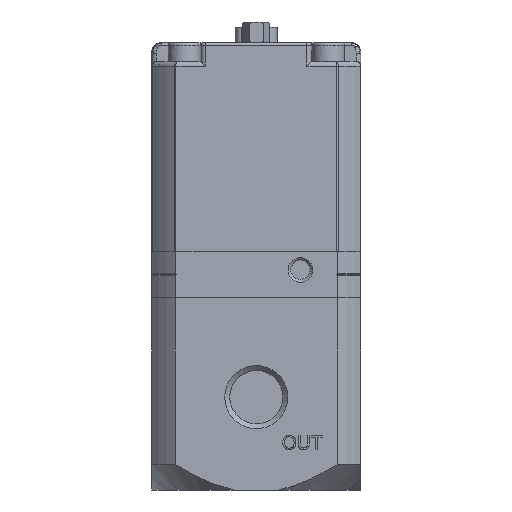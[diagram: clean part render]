
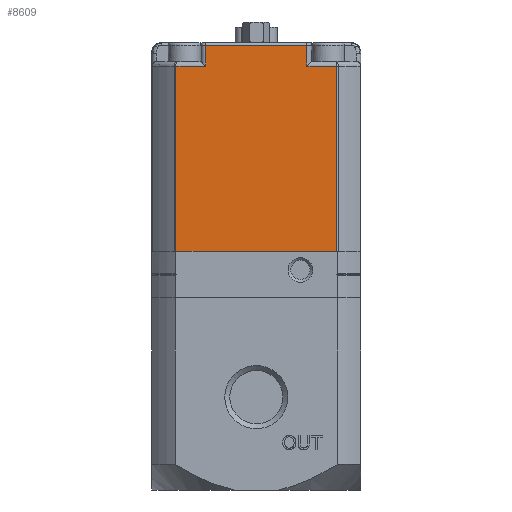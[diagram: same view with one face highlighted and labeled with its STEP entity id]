
A CAD part, left-side view. The second image highlights one B-rep face of the part: STEP entity #8609.
In plain terms, the highlighted planar face has unit normal (-1, 0, 0).
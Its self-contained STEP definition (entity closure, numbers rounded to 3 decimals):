
#1311=PLANE('',#9453);
#1651=FACE_OUTER_BOUND('',#2165,.T.);
#2165=EDGE_LOOP('',(#6922,#6923,#6924,#6925,#6926,#6927,#6928,#6929));
#2733=LINE('',#14725,#3386);
#2734=LINE('',#14777,#3387);
#2735=LINE('',#14779,#3388);
#2736=LINE('',#14781,#3389);
#2737=LINE('',#14782,#3390);
#2738=LINE('',#14784,#3391);
#2739=LINE('',#14786,#3392);
#2740=LINE('',#14787,#3393);
#3386=VECTOR('',#10961,10.);
#3387=VECTOR('',#10964,10.);
#3388=VECTOR('',#10965,10.);
#3389=VECTOR('',#10966,10.);
#3390=VECTOR('',#10967,10.);
#3391=VECTOR('',#10968,10.);
#3392=VECTOR('',#10969,10.);
#3393=VECTOR('',#10970,10.);
#4050=VERTEX_POINT('',#13675);
#4327=VERTEX_POINT('',#14723);
#4328=VERTEX_POINT('',#14775);
#4329=VERTEX_POINT('',#14776);
#4330=VERTEX_POINT('',#14778);
#4331=VERTEX_POINT('',#14780);
#4332=VERTEX_POINT('',#14783);
#4333=VERTEX_POINT('',#14785);
#5302=EDGE_CURVE('',#4327,#4050,#2733,.T.);
#5305=EDGE_CURVE('',#4328,#4329,#2734,.T.);
#5306=EDGE_CURVE('',#4330,#4328,#2735,.T.);
#5307=EDGE_CURVE('',#4331,#4330,#2736,.T.);
#5308=EDGE_CURVE('',#4050,#4331,#2737,.T.);
#5309=EDGE_CURVE('',#4332,#4327,#2738,.T.);
#5310=EDGE_CURVE('',#4333,#4332,#2739,.T.);
#5311=EDGE_CURVE('',#4329,#4333,#2740,.T.);
#6922=ORIENTED_EDGE('',*,*,#5305,.F.);
#6923=ORIENTED_EDGE('',*,*,#5306,.F.);
#6924=ORIENTED_EDGE('',*,*,#5307,.F.);
#6925=ORIENTED_EDGE('',*,*,#5308,.F.);
#6926=ORIENTED_EDGE('',*,*,#5302,.F.);
#6927=ORIENTED_EDGE('',*,*,#5309,.F.);
#6928=ORIENTED_EDGE('',*,*,#5310,.F.);
#6929=ORIENTED_EDGE('',*,*,#5311,.F.);
#8609=ADVANCED_FACE('',(#1651),#1311,.T.);
#9453=AXIS2_PLACEMENT_3D('',#14774,#10962,#10963);
#10961=DIRECTION('',(0.,0.,-1.));
#10962=DIRECTION('center_axis',(-1.,0.,0.));
#10963=DIRECTION('ref_axis',(0.,0.,
-1.));
#10964=DIRECTION('',(0.,0.,1.));
#10965=DIRECTION('',(0.,-1.,0.));
#10966=DIRECTION('',(0.,0.,1.));
#10967=DIRECTION('',(0.,1.,0.));
#10968=DIRECTION('',(0.,-1.,0.));
#10969=DIRECTION('',(0.,0.,-1.));
#10970=DIRECTION('',(0.,-1.,0.));
#13675=CARTESIAN_POINT('',(-22.5,-17.321,10.));
#14723=CARTESIAN_POINT('',(-22.5,-17.321,49.9));
#14725=CARTESIAN_POINT('',(-22.5,-17.321,10.));
#14774=CARTESIAN_POINT('Origin',(-22.5,-17.493,10.));
#14775=CARTESIAN_POINT('',(-22.5,10.9,49.9));
#14776=CARTESIAN_POINT('',(-22.5,10.9,54.4));
#14777=CARTESIAN_POINT('',(-22.5,10.9,32.45));
#14778=CARTESIAN_POINT('',(-22.5,17.321,49.9));
#14779=CARTESIAN_POINT('',(-22.5,-0.308,49.9));
#14780=CARTESIAN_POINT('',(-22.5,17.321,10.));
#14781=CARTESIAN_POINT('',(-22.5,17.321,10.));
#14782=CARTESIAN_POINT('',(-22.5,-22.5,10.));
#14783=CARTESIAN_POINT('',(-22.5,-10.9,49.9));
#14784=CARTESIAN_POINT('',(-22.5,-17.185,49.9));
#14785=CARTESIAN_POINT('',(-22.5,-10.9,54.4));
#14786=CARTESIAN_POINT('',(-22.5,-10.9,32.45));
#14787=CARTESIAN_POINT('',(-22.5,-8.746,54.4));
